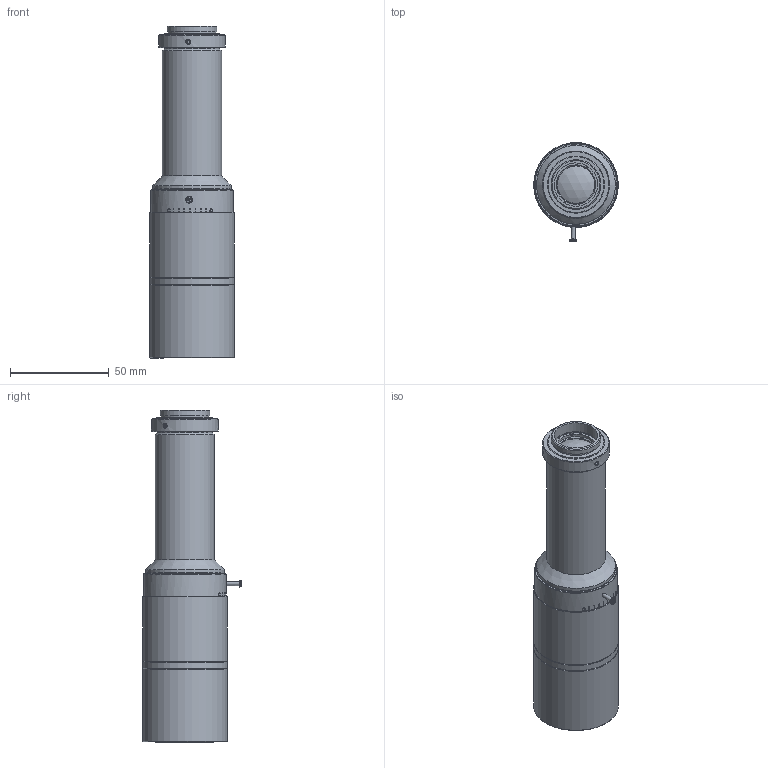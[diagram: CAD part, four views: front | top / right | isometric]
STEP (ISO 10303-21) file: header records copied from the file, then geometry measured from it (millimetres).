
FILE_DESCRIPTION(('STEP AP214'),'1');
FILE_NAME('TPC4-HMS110-VIE-FIL.stp','2024-09-17T02:08:37',(' '),(' '),'Spatial InterOp 3D',' ',' ');
FILE_SCHEMA(('AUTOMOTIVE_DESIGN { 1 0 10303 214 1 1 1 1 }'));
Length unit declared in the file: metre
Products named in the file (2): TPC4-HMS110-VIE-FIL; Component1
Assembly tree (1 placements, depth 2):
  TPC4-HMS110-VIE-FIL
    Component1
Bounding box: 43 x 50.22 x 168.51 mm (x, y, z)
Volume: 92006.6 mm3; surface area: 45409.1 mm2
Topology: 1 solids, 12 shells, 358 faces, 810 edges, 529 vertices
Faces by surface type: plane 141, cylinder 90, cone 82, bspline 39, sphere 4, torus 2
Full cylindrical faces by diameter (mm): 2 x2, 2.5 x3, 10 x1, 12.5 x1, 14.4 x1, 15.2 x1, 18.5 x1, 19 x1, 20 x1, 21 x2, 22 x2, 22.4 x1, 24 x2, 24.1 x1, 25.3 x1, 27.5 x1, 27.9 x1, 28 x4, 28.7 x1, 29 x1, 30 x1, 31.5 x1, 31.7 x1, 32 x1, 32.7 x1, 33.5 x2, 34 x3, 34.5 x1, 34.9 x1, 35 x1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
Entity records: 15437 total; most frequent: CARTESIAN_POINT 5483, DIRECTION 1371, ORIENTED_EDGE 1276, EDGE_CURVE 638, AXIS2_PLACEMENT_3D 605, EDGE_LOOP 558, VERTEX_POINT 488, FACE_OUTER_BOUND 431
